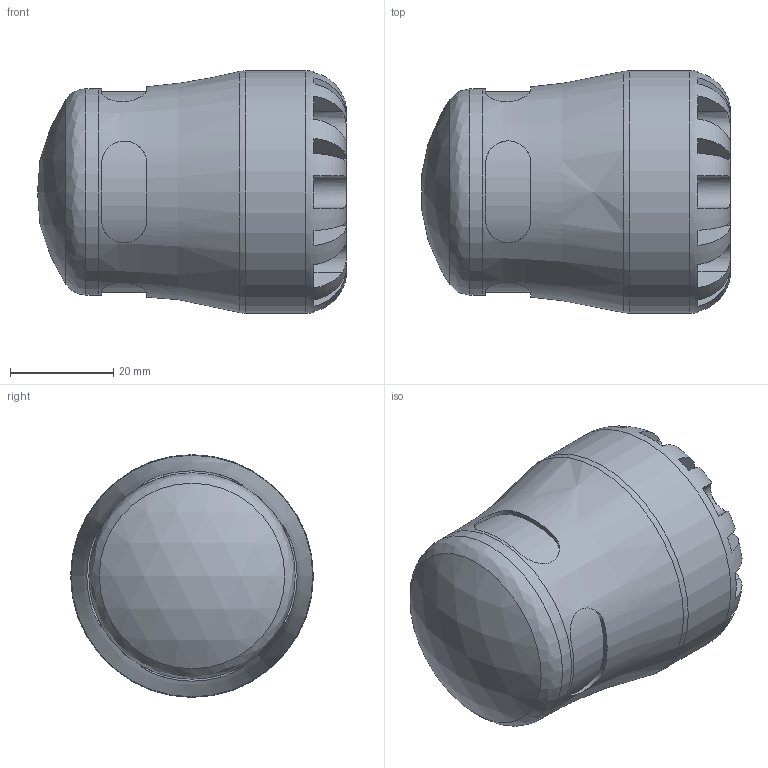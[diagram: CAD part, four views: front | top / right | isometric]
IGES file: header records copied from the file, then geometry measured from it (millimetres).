
Global section: file name: 101200025_191200025.ipt; native system: Autodesk Inventor 2015; preprocessor: unknown; author: KIM; date: 20170117.125119; units: millimetre
Bounding box: 59.84 x 47 x 47 mm (x, y, z)
Volume: 55608 mm3; surface area: 15010.7 mm2
Topology: 1 solids, 1 shells, 95 faces, 245 edges, 156 vertices
Faces by surface type: plane 57, revolution 23, cylinder 14, sphere 1
Full cylindrical faces by diameter (mm): 39.95 x1, 47 x1
